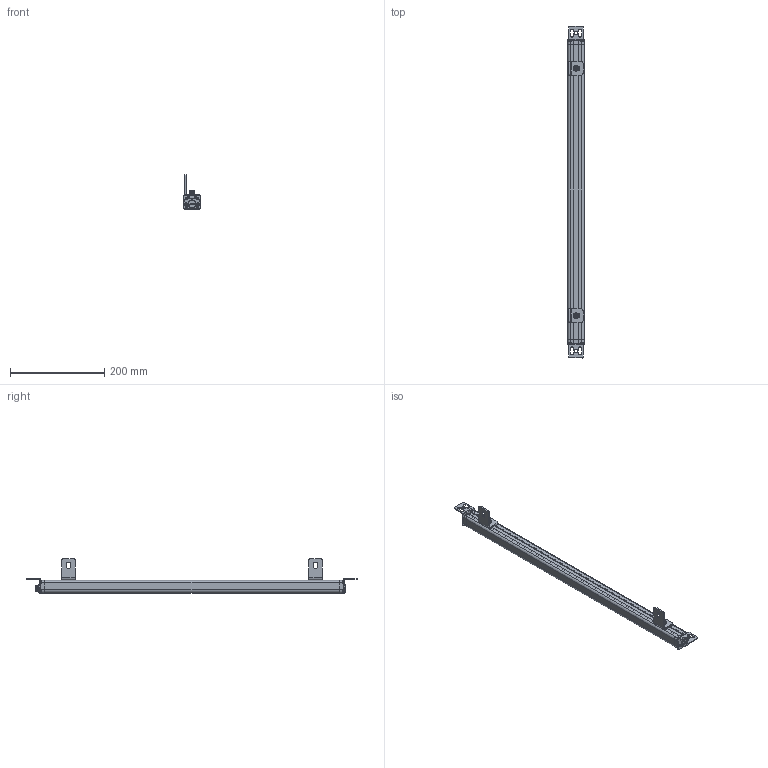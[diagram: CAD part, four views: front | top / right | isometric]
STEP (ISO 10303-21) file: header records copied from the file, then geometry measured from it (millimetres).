
FILE_DESCRIPTION((''),'2;1');
FILE_NAME('ELG-0440_ASM','2021-08-07T09:31:58',('18720616900'),(''),'CREO PARAMETRIC BY PTC INC, 2019010','CREO PARAMETRIC BY PTC INC, 2019010','');
FILE_SCHEMA(('CONFIG_CONTROL_DESIGN'));
Products named in the file (18): ELG--00; ELG--000; ELG000; M3--0001; 3000; 3--0001; ELG_30001_ASM; ST-3-12; L20001; M3-6; L10001; M6-1--00; M6-1-00; M6-8--0001; 00; L1--0001_ASM; ELG-0440_ASM
Assembly tree (34 placements, depth 3):
  ELG-0440_ASM
    ELG--00
    ELG--000
    ELG000
    ELG000
    M3--0001  x4
    ELG_30001_ASM
      3000
      3--0001  x3
    ST-3-12  x8
    L20001  x2
    M3-6  x4
    L1--0001_ASM  x2
      L10001
      M6-1--00
      M6-1-00
      M6-8--0001
      00
Bounding box: 35 x 705 x 73.4 mm (x, y, z)
Volume: 562430.2 mm3; surface area: 153152.5 mm2
Topology: 36 solids, 36 shells, 3404 faces, 9468 edges, 6167 vertices
Faces by surface type: cylinder 1928, plane 616, bspline 398, cone 353, torus 99, sphere 10
Entity records: 68753 total; most frequent: CARTESIAN_POINT 35026, ORIENTED_EDGE 7326, DIRECTION 6679, EDGE_CURVE 3663, AXIS2_PLACEMENT_3D 2530, VERTEX_POINT 2387, VECTOR 1619, LINE 1619
